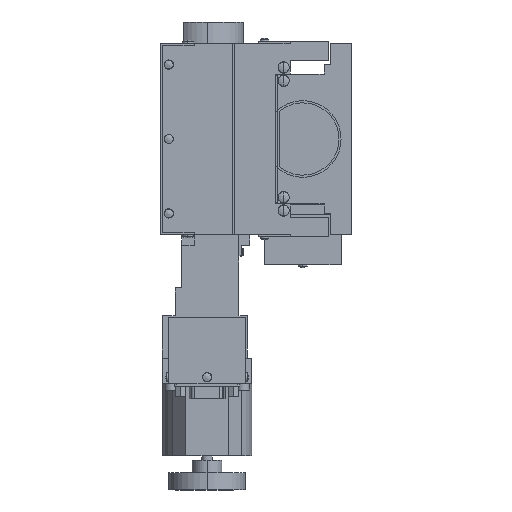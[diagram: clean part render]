
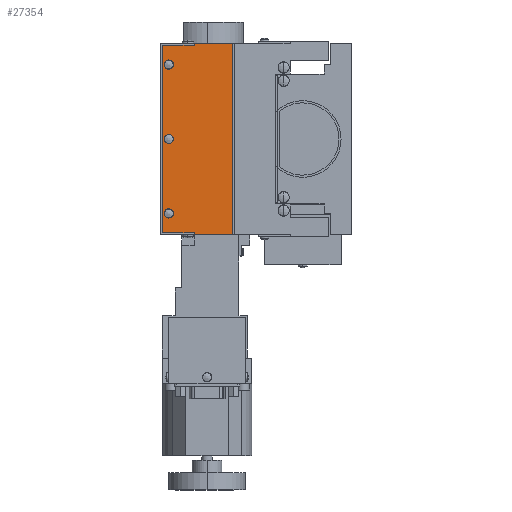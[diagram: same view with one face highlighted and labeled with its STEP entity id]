
A CAD part, left-side view. The second image highlights one B-rep face of the part: STEP entity #27354.
In plain terms, the highlighted planar face has unit normal (-1, 0, 0).
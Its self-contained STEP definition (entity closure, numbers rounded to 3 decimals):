
#442 = DIRECTION ( 'NONE',  ( 0., 1., 0. ) ) ;
#443 = DIRECTION ( 'NONE',  ( -1., 0., 0. ) ) ;
#444 = CARTESIAN_POINT ( 'NONE',  ( -46., 86., 35. ) ) ;
#445 = AXIS2_PLACEMENT_3D ( 'NONE', #444, #443, #442 ) ;
#449 = CIRCLE ( 'NONE', #445, 2.15 ) ;
#484 = CARTESIAN_POINT ( 'NONE',  ( -46., 88.15, 35. ) ) ;
#1629 = VERTEX_POINT ( 'NONE', #30194 ) ;
#1649 = VERTEX_POINT ( 'NONE', #30166 ) ;
#1661 = EDGE_CURVE ( 'NONE', #1629, #1649, #30164, .T. ) ;
#2257 = VERTEX_POINT ( 'NONE', #11330 ) ;
#2262 = EDGE_CURVE ( 'NONE', #2266, #2257, #11343, .T. ) ;
#2266 = VERTEX_POINT ( 'NONE', #11333 ) ;
#3113 = DIRECTION ( 'NONE',  ( 0., -1., 0. ) ) ;
#3114 = VECTOR ( 'NONE', #3113, 1000. ) ;
#3115 = CARTESIAN_POINT ( 'NONE',  ( -46., 74., 44. ) ) ;
#3116 = LINE ( 'NONE', #3115, #3114 ) ;
#3261 = CARTESIAN_POINT ( 'NONE',  ( -46., 74., -44. ) ) ;
#3266 = DIRECTION ( 'NONE',  ( 0., 1., 0. ) ) ;
#3267 = VECTOR ( 'NONE', #3266, 1000. ) ;
#3268 = CARTESIAN_POINT ( 'NONE',  ( -46., 74., -44. ) ) ;
#3269 = LINE ( 'NONE', #3268, #3267 ) ;
#3314 = DIRECTION ( 'NONE',  ( 0., 0., 1. ) ) ;
#3315 = VECTOR ( 'NONE', #3314, 1000. ) ;
#3316 = CARTESIAN_POINT ( 'NONE',  ( -46., 74., 45. ) ) ;
#3317 = LINE ( 'NONE', #3316, #3315 ) ;
#3318 = CARTESIAN_POINT ( 'NONE',  ( -46., 74., 44. ) ) ;
#3336 = CARTESIAN_POINT ( 'NONE',  ( -46., 89., 44. ) ) ;
#3337 = DIRECTION ( 'NONE',  ( 0., 0., 1. ) ) ;
#3338 = VECTOR ( 'NONE', #3337, 1000. ) ;
#3339 = CARTESIAN_POINT ( 'NONE',  ( -46., 89., 45. ) ) ;
#3340 = LINE ( 'NONE', #3339, #3338 ) ;
#3341 = CARTESIAN_POINT ( 'NONE',  ( -46., 89., -44. ) ) ;
#3381 = DIRECTION ( 'NONE',  ( 0., 0., 1. ) ) ;
#3382 = VECTOR ( 'NONE', #3381, 1000. ) ;
#3383 = CARTESIAN_POINT ( 'NONE',  ( -46., 56., 45. ) ) ;
#3384 = LINE ( 'NONE', #3383, #3382 ) ;
#3385 = DIRECTION ( 'NONE',  ( 0., 1., 0. ) ) ;
#3386 = DIRECTION ( 'NONE',  ( -1., 0., 0. ) ) ;
#3387 = CARTESIAN_POINT ( 'NONE',  ( -46., 56., 45. ) ) ;
#3388 = AXIS2_PLACEMENT_3D ( 'NONE', #3387, #3386, #3385 ) ;
#3389 = PLANE ( 'NONE',  #3388 ) ;
#3393 = FACE_BOUND ( 'NONE', #27362, .T. ) ;
#3395 = FACE_BOUND ( 'NONE', #27359, .T. ) ;
#3397 = FACE_OUTER_BOUND ( 'NONE', #27378, .T. ) ;
#3399 = FACE_BOUND ( 'NONE', #27355, .T. ) ;
#3401 = DIRECTION ( 'NONE',  ( 0., 0., 1. ) ) ;
#3402 = VECTOR ( 'NONE', #3401, 1000. ) ;
#3405 = CARTESIAN_POINT ( 'NONE',  ( -46., 74., -44. ) ) ;
#3407 = LINE ( 'NONE', #3405, #3402 ) ;
#4522 = EDGE_CURVE ( 'NONE', #20395, #19709, #13665, .T. ) ;
#4541 = EDGE_CURVE ( 'NONE', #19822, #19815, #13730, .T. ) ;
#4873 = EDGE_CURVE ( 'NONE', #19693, #19690, #14557, .T. ) ;
#11330 = CARTESIAN_POINT ( 'NONE',  ( -46., 74., 45. ) ) ;
#11333 = CARTESIAN_POINT ( 'NONE',  ( -46., 56., 45. ) ) ;
#11334 = DIRECTION ( 'NONE',  ( 0., 1., 0. ) ) ;
#11335 = VECTOR ( 'NONE', #11334, 1000. ) ;
#11337 = CARTESIAN_POINT ( 'NONE',  ( -46., 56., 45. ) ) ;
#11343 = LINE ( 'NONE', #11337, #11335 ) ;
#13661 = DIRECTION ( 'NONE',  ( 0., 1., 0. ) ) ;
#13662 = DIRECTION ( 'NONE',  ( -1., 0., 0. ) ) ;
#13663 = CARTESIAN_POINT ( 'NONE',  ( -46., 86., 35. ) ) ;
#13664 = AXIS2_PLACEMENT_3D ( 'NONE', #13663, #13662, #13661 ) ;
#13665 = CIRCLE ( 'NONE', #13664, 2.15 ) ;
#13726 = DIRECTION ( 'NONE',  ( 0., 1., 0. ) ) ;
#13727 = DIRECTION ( 'NONE',  ( -1., 0., 0. ) ) ;
#13728 = CARTESIAN_POINT ( 'NONE',  ( -46., 86., 0. ) ) ;
#13729 = AXIS2_PLACEMENT_3D ( 'NONE', #13728, #13727, #13726 ) ;
#13730 = CIRCLE ( 'NONE', #13729, 2.15 ) ;
#14556 = AXIS2_PLACEMENT_3D ( 'NONE', #14581, #14580, #14579 ) ;
#14557 = CIRCLE ( 'NONE', #14556, 2.15 ) ;
#14579 = DIRECTION ( 'NONE',  ( 0., 1., 0. ) ) ;
#14580 = DIRECTION ( 'NONE',  ( -1., 0., 0. ) ) ;
#14581 = CARTESIAN_POINT ( 'NONE',  ( -46., 86., -35. ) ) ;
#19690 = VERTEX_POINT ( 'NONE', #26395 ) ;
#19692 = EDGE_CURVE ( 'NONE', #19690, #19693, #26394, .T. ) ;
#19693 = VERTEX_POINT ( 'NONE', #26303 ) ;
#19709 = VERTEX_POINT ( 'NONE', #26286 ) ;
#19815 = VERTEX_POINT ( 'NONE', #26531 ) ;
#19820 = EDGE_CURVE ( 'NONE', #19815, #19822, #26566, .T. ) ;
#19822 = VERTEX_POINT ( 'NONE', #26760 ) ;
#20395 = VERTEX_POINT ( 'NONE', #484 ) ;
#20400 = EDGE_CURVE ( 'NONE', #19709, #20395, #449, .T. ) ;
#26286 = CARTESIAN_POINT ( 'NONE',  ( -46., 83.85, 35. ) ) ;
#26303 = CARTESIAN_POINT ( 'NONE',  ( -46., 88.15, -35. ) ) ;
#26304 = DIRECTION ( 'NONE',  ( 0., 1., 0. ) ) ;
#26305 = DIRECTION ( 'NONE',  ( -1., 0., 0. ) ) ;
#26306 = CARTESIAN_POINT ( 'NONE',  ( -46., 86., -35. ) ) ;
#26307 = AXIS2_PLACEMENT_3D ( 'NONE', #26306, #26305, #26304 ) ;
#26394 = CIRCLE ( 'NONE', #26307, 2.15 ) ;
#26395 = CARTESIAN_POINT ( 'NONE',  ( -46., 83.85, -35. ) ) ;
#26531 = CARTESIAN_POINT ( 'NONE',  ( -46., 83.85, 0. ) ) ;
#26564 = CARTESIAN_POINT ( 'NONE',  ( -46., 86., 0. ) ) ;
#26565 = AXIS2_PLACEMENT_3D ( 'NONE', #26564, #26762, #26761 ) ;
#26566 = CIRCLE ( 'NONE', #26565, 2.15 ) ;
#26760 = CARTESIAN_POINT ( 'NONE',  ( -46., 88.15, 0. ) ) ;
#26761 = DIRECTION ( 'NONE',  ( 0., 1., 0. ) ) ;
#26762 = DIRECTION ( 'NONE',  ( -1., 0., 0. ) ) ;
#27136 = VERTEX_POINT ( 'NONE', #3318 ) ;
#27138 = EDGE_CURVE ( 'NONE', #27136, #2257, #3317, .T. ) ;
#27163 = EDGE_CURVE ( 'NONE', #27341, #27136, #3116, .T. ) ;
#27246 = ORIENTED_EDGE ( 'NONE', *, *, #27353, .F. ) ;
#27247 = ORIENTED_EDGE ( 'NONE', *, *, #1661, .F. ) ;
#27248 = ORIENTED_EDGE ( 'NONE', *, *, #27366, .T. ) ;
#27259 = EDGE_CURVE ( 'NONE', #27264, #27335, #3269, .T. ) ;
#27264 = VERTEX_POINT ( 'NONE', #3261 ) ;
#27335 = VERTEX_POINT ( 'NONE', #3341 ) ;
#27340 = EDGE_CURVE ( 'NONE', #27335, #27341, #3340, .T. ) ;
#27341 = VERTEX_POINT ( 'NONE', #3336 ) ;
#27353 = EDGE_CURVE ( 'NONE', #1649, #27264, #3407, .T. ) ;
#27354 = ADVANCED_FACE ( 'NONE', ( #3399, #3397, #3395, #3393 ), #3389, .T. ) ;
#27355 = EDGE_LOOP ( 'NONE', ( #27376, #27377 ) ) ;
#27356 = ORIENTED_EDGE ( 'NONE', *, *, #2262, .T. ) ;
#27357 = ORIENTED_EDGE ( 'NONE', *, *, #27138, .F. ) ;
#27358 = ORIENTED_EDGE ( 'NONE', *, *, #27163, .F. ) ;
#27359 = EDGE_LOOP ( 'NONE', ( #27360, #27361 ) ) ;
#27360 = ORIENTED_EDGE ( 'NONE', *, *, #4522, .F. ) ;
#27361 = ORIENTED_EDGE ( 'NONE', *, *, #20400, .F. ) ;
#27362 = EDGE_LOOP ( 'NONE', ( #27363, #27364 ) ) ;
#27363 = ORIENTED_EDGE ( 'NONE', *, *, #4873, .F. ) ;
#27364 = ORIENTED_EDGE ( 'NONE', *, *, #19692, .F. ) ;
#27366 = EDGE_CURVE ( 'NONE', #1629, #2266, #3384, .T. ) ;
#27374 = ORIENTED_EDGE ( 'NONE', *, *, #27340, .F. ) ;
#27375 = ORIENTED_EDGE ( 'NONE', *, *, #27259, .F. ) ;
#27376 = ORIENTED_EDGE ( 'NONE', *, *, #4541, .F. ) ;
#27377 = ORIENTED_EDGE ( 'NONE', *, *, #19820, .F. ) ;
#27378 = EDGE_LOOP ( 'NONE', ( #27374, #27375, #27246, #27247, #27248, #27356, #27357, #27358 ) ) ;
#30164 = LINE ( 'NONE', #30175, #30174 ) ;
#30166 = CARTESIAN_POINT ( 'NONE',  ( -46., 74., -45. ) ) ;
#30173 = DIRECTION ( 'NONE',  ( 0., 1., 0. ) ) ;
#30174 = VECTOR ( 'NONE', #30173, 1000. ) ;
#30175 = CARTESIAN_POINT ( 'NONE',  ( -46., 56., -45. ) ) ;
#30194 = CARTESIAN_POINT ( 'NONE',  ( -46., 56., -45. ) ) ;
